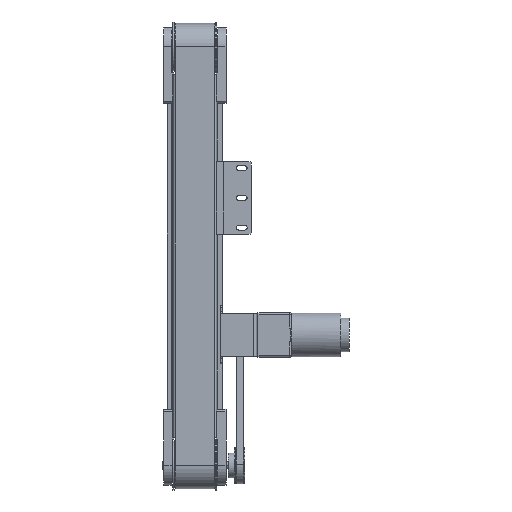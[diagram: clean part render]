
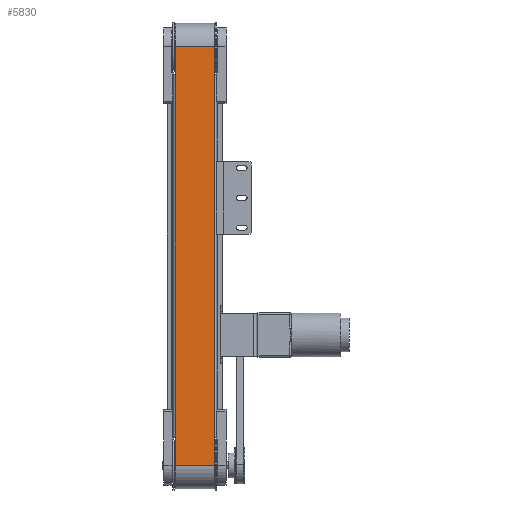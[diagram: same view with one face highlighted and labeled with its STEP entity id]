
A CAD part, front view. The second image highlights one B-rep face of the part: STEP entity #5830.
In plain terms, the highlighted planar face has unit normal (0, -1, 0).
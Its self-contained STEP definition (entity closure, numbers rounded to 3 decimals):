
#3670=PLANE('',#37168);
#5830=ADVANCED_FACE('',(#8265),#3670,.F.);
#8265=FACE_OUTER_BOUND('',#10276,.T.);
#10276=EDGE_LOOP('',(#24754,#24755,#24756,#24757));
#12409=LINE('',#63754,#14925);
#12411=LINE('',#63762,#14927);
#12414=LINE('',#63774,#14930);
#12419=LINE('',#63787,#14935);
#14925=VECTOR('',#45200,1.);
#14927=VECTOR('',#45208,1.);
#14930=VECTOR('',#45219,1.);
#14935=VECTOR('',#45232,1.);
#24754=ORIENTED_EDGE('',*,*,#33016,.T.);
#24755=ORIENTED_EDGE('',*,*,#33024,.F.);
#24756=ORIENTED_EDGE('',*,*,#33010,.F.);
#24757=ORIENTED_EDGE('',*,*,#33006,.T.);
#28086=VERTEX_POINT('',#63749);
#28088=VERTEX_POINT('',#63753);
#28089=VERTEX_POINT('',#63757);
#28095=VERTEX_POINT('',#63772);
#33006=EDGE_CURVE('',#28086,#28088,#12409,.T.);
#33010=EDGE_CURVE('',#28086,#28089,#12411,.T.);
#33016=EDGE_CURVE('',#28088,#28095,#12414,.T.);
#33024=EDGE_CURVE('',#28089,#28095,#12419,.T.);
#37168=AXIS2_PLACEMENT_3D('',#63792,#45240,#45241);
#45200=DIRECTION('',(0.,0.,-1.));
#45208=DIRECTION('',(1.,0.,0.));
#45219=DIRECTION('',(1.,0.,0.));
#45232=DIRECTION('',(0.,0.,-1.));
#45240=DIRECTION('',(0.,1.,0.));
#45241=DIRECTION('',(1.,0.,0.));
#63749=CARTESIAN_POINT('',(0.,-32.,27.));
#63753=CARTESIAN_POINT('',(0.,-32.,-27.));
#63754=CARTESIAN_POINT('',(0.,-32.,27.));
#63757=CARTESIAN_POINT('',(576.,-32.,27.));
#63762=CARTESIAN_POINT('',(0.,-32.,27.));
#63772=CARTESIAN_POINT('',(576.,-32.,-27.));
#63774=CARTESIAN_POINT('',(0.,-32.,-27.));
#63787=CARTESIAN_POINT('',(576.,-32.,27.));
#63792=CARTESIAN_POINT('',(0.,-32.,27.));
